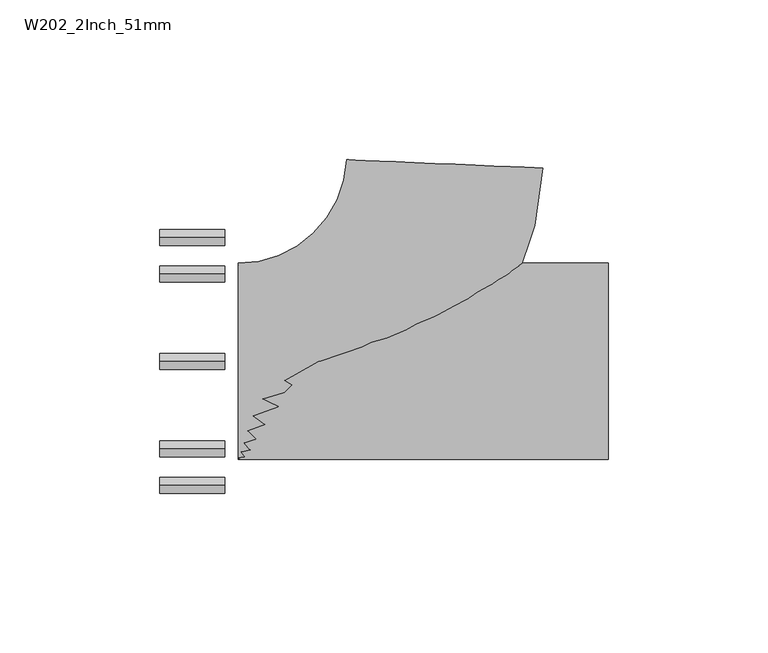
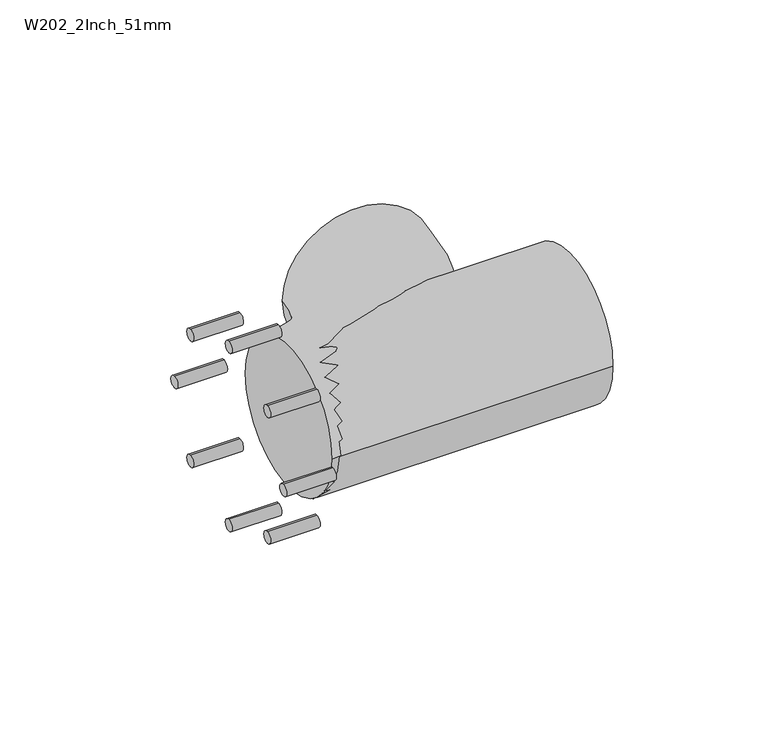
"""IFC4 building model written with IfcOpenShell, lengths in millimetres: pipe fitting geometry, Durapipe_PipeFitting_VulcatheneMechanical_92.5EqualSweepTee_W20 : W202_2Inch_51mm."""

import ifcopenshell
import ifcopenshell.guid

model = None  # the IFC model being written
_history = None  # IfcOwnerHistory: only IFC2X3 demands one
_inside = {}  # id of a spatial element -> (the spatial element, [elements in it])
_under = {}  # id of a project, library or spatial element -> (it, [spatial elements below it])
_declared = {}  # id of a project -> (the project, [libraries it declares])
_typed = {}  # id of a type object -> (the type object, [elements of that type])
_made_of = {}  # id of a material, layer set ... -> (it, [elements and type objects made of it])


def new_model(schema):
    """Start an empty IFC model of exactly this schema.

    Asked for "IFC4X3", IfcOpenShell would pick the latest addendum, in which some entities
    have other attributes; the version numbers below select the first issue.
    IFC2X3 requires an IfcOwnerHistory on every rooted entity: one is made here for all.
    """
    global model, _history
    if schema == "IFC4X3":
        model = ifcopenshell.file(schema_version=(4, 3, 0, 0))
    else:
        model = ifcopenshell.file(schema=schema)
    _inside.clear()
    _under.clear()
    _declared.clear()
    _typed.clear()
    _made_of.clear()
    _history = None
    if model.schema == "IFC2X3":
        org = make("IfcOrganization", Name="unknown")
        user = make(
            "IfcPersonAndOrganization",
            ThePerson=make("IfcPerson", FamilyName="unknown"),
            TheOrganization=org,
        )
        app = make(
            "IfcApplication",
            ApplicationDeveloper=org,
            Version="unknown",
            ApplicationFullName="unknown",
            ApplicationIdentifier="unknown",
        )
        _history = make(
            "IfcOwnerHistory",
            OwningUser=user,
            OwningApplication=app,
            ChangeAction="ADDED",
            CreationDate=0,
        )
    return model


def make(cls, **values):
    """One entity of the class cls with the attributes given. An attribute that is None is left unset."""
    return model.create_entity(
        cls, **{name: value for name, value in values.items() if value is not None}
    )


def rooted(cls, **values):
    """An entity with a GlobalId (a new one), such as an element, a storey or a relation."""
    return make(cls, GlobalId=ifcopenshell.guid.new(), OwnerHistory=_history, **values)


def si_unit(unit_type, name, prefix=None):
    """IfcSIUnit, for example si_unit("LENGTHUNIT", "METRE", prefix="MILLI")."""
    return make("IfcSIUnit", UnitType=unit_type, Prefix=prefix, Name=name)


def assignment(units):
    """IfcUnitAssignment: the units of a project."""
    return None if units is None else make("IfcUnitAssignment", Units=units)


def point(xyz):
    """IfcCartesianPoint."""
    return None if xyz is None else make("IfcCartesianPoint", Coordinates=xyz)


def direction(xyz):
    """IfcDirection."""
    return None if xyz is None else make("IfcDirection", DirectionRatios=xyz)


def frame(location, z_axis=None, x_axis=None):
    """IfcAxis2Placement3D, a coordinate frame: its origin and axes. An axis left out is left unset."""
    return make(
        "IfcAxis2Placement3D",
        Location=point(location),
        Axis=direction(z_axis),
        RefDirection=direction(x_axis),
    )


def frame_2d(location, x_axis=None):
    """IfcAxis2Placement2D, a coordinate frame in the plane: its origin and x axis."""
    return make(
        "IfcAxis2Placement2D", Location=point(location), RefDirection=direction(x_axis)
    )


def origin():
    """The frame at (0, 0, 0) with its axes left unset."""
    return frame((0.0, 0.0, 0.0))


def place(relative_to, where):
    """IfcLocalPlacement: puts the frame where relative to a parent placement (None: the world)."""
    return make(
        "IfcLocalPlacement", PlacementRelTo=relative_to, RelativePlacement=where
    )


def context(
    kind, dimensions, precision=None, world=None, true_north=None, identifier=None
):
    """IfcGeometricRepresentationContext, for example the 3D "Model" context."""
    return make(
        "IfcGeometricRepresentationContext",
        ContextIdentifier=identifier,
        ContextType=kind,
        CoordinateSpaceDimension=dimensions,
        Precision=precision,
        WorldCoordinateSystem=world,
        TrueNorth=true_north,
    )


def project(units=None, contexts=None):
    """IfcProject with its units and contexts."""
    return rooted(
        "IfcProject",
        Name="project",
        RepresentationContexts=contexts,
        UnitsInContext=assignment(units),
    )


def spatial(cls, under=None, at=None, **own):
    """A site, building, storey or space (cls), placed at a placement, below another one or the project."""
    s = rooted(cls, ObjectPlacement=at, **own)
    if under is not None:
        _under.setdefault(under.id(), (under, []))[1].append(s)
    return s


def circle_curve(where, radius):
    """IfcCircle in the frame where."""
    return make("IfcCircle", Position=where, Radius=radius)


def ellipse_curve(where, semi_axis1, semi_axis2):
    """IfcEllipse in the frame where."""
    return make(
        "IfcEllipse", Position=where, SemiAxis1=semi_axis1, SemiAxis2=semi_axis2
    )


def trimmed(basis, trim1, trim2, sense, master):
    """IfcTrimmedCurve: the piece of a basis curve between two trims."""
    return make(
        "IfcTrimmedCurve",
        BasisCurve=basis,
        Trim1=trim1,
        Trim2=trim2,
        SenseAgreement=sense,
        MasterRepresentation=master,
    )


def segment(curve, same_sense, transition):
    """IfcCompositeCurveSegment."""
    return make(
        "IfcCompositeCurveSegment",
        Transition=transition,
        SameSense=same_sense,
        ParentCurve=curve,
    )


def composite_curve(segments, self_intersect=None):
    """IfcCompositeCurve: segments joined end to end."""
    return make("IfcCompositeCurve", Segments=segments, SelfIntersect=self_intersect)


def outline(outer, holes=None, kind="AREA"):
    """IfcArbitraryClosedProfileDef: a profile drawn as a closed curve; with holes, ...WithVoids."""
    if holes is None:
        return make("IfcArbitraryClosedProfileDef", ProfileType=kind, OuterCurve=outer)
    return make(
        "IfcArbitraryProfileDefWithVoids",
        ProfileType=kind,
        OuterCurve=outer,
        InnerCurves=holes,
    )


def extrude(swept, where, along, depth):
    """IfcExtrudedAreaSolid: the profile swept, set in the frame where, extruded along a direction by depth."""
    return make(
        "IfcExtrudedAreaSolid",
        SweptArea=swept,
        Position=where,
        ExtrudedDirection=direction(along),
        Depth=depth,
    )


def shape(context_of_items, identifier, shape_type, items):
    """IfcShapeRepresentation: the items that make up one representation, for example the "Body"."""
    return make(
        "IfcShapeRepresentation",
        ContextOfItems=context_of_items,
        RepresentationIdentifier=identifier,
        RepresentationType=shape_type,
        Items=items,
    )


def source(mapping_origin, context_of_items, identifier, shape_type, items):
    """IfcRepresentationMap: a shape defined once, which mapped items show again and again."""
    return make(
        "IfcRepresentationMap",
        MappingOrigin=mapping_origin,
        MappedRepresentation=shape(context_of_items, identifier, shape_type, items),
    )


def transform(
    local_origin,
    x_axis=None,
    y_axis=None,
    z_axis=None,
    scale=None,
    scale2=None,
    scale3=None,
    uniform=True,
):
    """IfcCartesianTransformationOperator3D, or its non-uniform kind. x_axis, y_axis, z_axis: its Axis1, 2, 3."""
    if uniform:
        return make(
            "IfcCartesianTransformationOperator3D",
            Axis1=direction(x_axis),
            Axis2=direction(y_axis),
            LocalOrigin=point(local_origin),
            Scale=scale,
            Axis3=direction(z_axis),
        )
    return make(
        "IfcCartesianTransformationOperator3DnonUniform",
        Axis1=direction(x_axis),
        Axis2=direction(y_axis),
        LocalOrigin=point(local_origin),
        Scale=scale,
        Axis3=direction(z_axis),
        Scale2=scale2,
        Scale3=scale3,
    )


def mapped(mapping_source, mapping_target):
    """IfcMappedItem: shows the shape of a source again, moved by a transform."""
    return make(
        "IfcMappedItem", MappingSource=mapping_source, MappingTarget=mapping_target
    )


def made_of(thing, what):
    """Note that an element or type object is made of a material, layer set ...; save() writes the relation."""
    if what is not None:
        _made_of.setdefault(what.id(), (what, []))[1].append(thing)
    return thing


def element(
    cls,
    number,
    at=None,
    inside=None,
    cuts=None,
    type_object=None,
    material=None,
    context=None,
    identifier="Body",
    shape_type=None,
    held_by="IfcProductDefinitionShape",
    body=None,
    shapes=None,
    **own,
):
    """One element of the class cls, such as IfcWall. Its Tag is "e" and its number.

    at: its placement. inside: the storey or other place that contains it. cuts: it is an
    opening in that element (IfcRelVoidsElement). A single representation is given by context,
    identifier, shape_type and body (its items); several are given by shapes. held_by: the class
    of the entity that holds the representations. save() writes the other relations.
    """
    e = rooted(cls, Tag="e%d" % number, ObjectPlacement=at, **own)
    if body is not None:
        shapes = [shape(context, identifier, shape_type, body)]
    if shapes is not None:
        e.Representation = make(held_by, Representations=shapes)
    if inside is not None:
        _inside.setdefault(inside.id(), (inside, []))[1].append(e)
    if cuts is not None:
        rooted(
            "IfcRelVoidsElement", RelatingBuildingElement=cuts, RelatedOpeningElement=e
        )
    if type_object is not None:
        _typed.setdefault(type_object.id(), (type_object, []))[1].append(e)
    return made_of(e, material)


def aggregate(whole, parts):
    """IfcRelAggregates: a whole, such as a stair, and the parts it consists of."""
    return rooted("IfcRelAggregates", RelatingObject=whole, RelatedObjects=parts)


def save(model, path):
    """Write the relations noted so far, then the file.

    IfcRelAggregates (storeys below a building ...), IfcRelContainedInSpatialStructure (elements
    in a storey), IfcRelDefinesByType, IfcRelAssociatesMaterial and IfcRelDeclares: one each for
    every whole, place, type object, material and project.
    """
    for whole, parts in _under.values():
        aggregate(whole, parts)
    for where, things in _inside.values():
        rooted(
            "IfcRelContainedInSpatialStructure",
            RelatedElements=things,
            RelatingStructure=where,
        )
    for kind, things in _typed.values():
        rooted("IfcRelDefinesByType", RelatedObjects=things, RelatingType=kind)
    for what, things in _made_of.values():
        rooted("IfcRelAssociatesMaterial", RelatedObjects=things, RelatingMaterial=what)
    for by, libraries in _declared.values():
        rooted("IfcRelDeclares", RelatingContext=by, RelatedDefinitions=libraries)
    model.write(path)


def plane_surface(at):
    """IfcPlane: the flat surface through the origin of the frame at, square to its z axis."""
    return make("IfcPlane", Position=at)


def cylinder_surface(at, radius):
    """IfcCylindricalSurface: all points at the distance radius from the z axis of the frame at."""
    return make("IfcCylindricalSurface", Position=at, Radius=radius)


def revolved_surface(curve, axis_point, axis_direction):
    """IfcSurfaceOfRevolution: the curve turned about the line through axis_point along axis_direction."""
    return make(
        "IfcSurfaceOfRevolution",
        SweptCurve=make("IfcArbitraryOpenProfileDef", ProfileType="CURVE", Curve=curve),
        AxisPosition=make("IfcAxis1Placement", Location=point(axis_point), Axis=direction(axis_direction)),
    )


def advanced_brep(points, edges, surfaces, faces):
    """IfcAdvancedBrep: a solid bounded by faces that lie on surfaces and meet in shared edges.

    An edge is (start, end): straight between two places in points (the first is 0);
    or (start, end, curve); or (start, end, curve, False) where it runs against its curve.
    A face is (place in surfaces, loops), or (place, loops, False) where it looks against
    its surface's normal. A loop lists edges by number (the first is 1), with a minus sign
    where the edge is run from its end to its start. The first loop is the outer one.
    """
    corners = [point(p) for p in points]
    vertices = [make("IfcVertexPoint", VertexGeometry=c) for c in corners]
    made = []
    for start, end, *more in edges:
        made.append(
            make(
                "IfcEdgeCurve",
                EdgeStart=vertices[start],
                EdgeEnd=vertices[end],
                EdgeGeometry=more[0] if more else make("IfcPolyline", Points=[corners[start], corners[end]]),
                SameSense=more[1] if len(more) > 1 else True,
            )
        )
    hull = []
    for where, loops, *sense in faces:
        bounds = []
        for j, loop in enumerate(loops):
            ring = [make("IfcOrientedEdge", EdgeElement=made[abs(k) - 1], Orientation=k > 0) for k in loop]
            bounds.append(
                make(
                    "IfcFaceOuterBound" if j == 0 else "IfcFaceBound",
                    Bound=make("IfcEdgeLoop", EdgeList=ring),
                    Orientation=True,
                )
            )
        hull.append(make("IfcAdvancedFace", Bounds=bounds, FaceSurface=surfaces[where], SameSense=sense[0] if sense else True))
    return make("IfcAdvancedBrep", Outer=make("IfcClosedShell", CfsFaces=hull))


def w202_2inch_51mm_a334517c(model_context):
    return source(origin(), model_context, "Body", "SolidModel", [
        extrude(outline(composite_curve([segment(trimmed(circle_curve(frame_2d((38.8, 0.0)), 2.5), [point((38.8, -2.5))], [point((38.8, 2.5))], False, "CARTESIAN"), True, "CONTINUOUS"), segment(trimmed(circle_curve(frame_2d((38.8, 0.0)), 2.5), [point((38.8, 2.5))], [point((38.8, -2.5))], False, "CARTESIAN"), True, "CONTINUOUS")], self_intersect=False)), frame((-86.5367757, 0.0, 0.0), z_axis=(1.0, 0.0, 0.0), x_axis=(0.0, 1.0, 0.0)), (0.0, 0.0, 1.0), 20.4),
        extrude(outline(composite_curve([segment(trimmed(circle_curve(frame_2d((27.4357431, 27.4357431)), 2.5), [point((27.4357431, 24.9357431))], [point((27.4357431, 29.9357431))], False, "CARTESIAN"), True, "CONTINUOUS"), segment(trimmed(circle_curve(frame_2d((27.4357431, 27.4357431)), 2.5), [point((27.4357431, 29.9357431))], [point((27.4357431, 24.9357431))], False, "CARTESIAN"), True, "CONTINUOUS")], self_intersect=False)), frame((-86.5367757, 0.0, 0.0), z_axis=(1.0, 0.0, 0.0), x_axis=(0.0, 1.0, 0.0)), (0.0, 0.0, 1.0), 20.4),
        extrude(outline(composite_curve([segment(trimmed(circle_curve(frame_2d((0.0, 38.8)), 2.5), [point((0.0, 36.3))], [point((0.0, 41.3))], False, "CARTESIAN"), True, "CONTINUOUS"), segment(trimmed(circle_curve(frame_2d((0.0, 38.8)), 2.5), [point((0.0, 41.3))], [point((0.0, 36.3))], False, "CARTESIAN"), True, "CONTINUOUS")], self_intersect=False)), frame((-86.5367757, 0.0, 0.0), z_axis=(1.0, 0.0, 0.0), x_axis=(0.0, 1.0, 0.0)), (0.0, 0.0, 1.0), 20.4),
        extrude(outline(composite_curve([segment(trimmed(circle_curve(frame_2d((-27.4357431, 27.4357431)), 2.5), [point((-27.4357431, 24.9357431))], [point((-27.4357431, 29.9357431))], False, "CARTESIAN"), True, "CONTINUOUS"), segment(trimmed(circle_curve(frame_2d((-27.4357431, 27.4357431)), 2.5), [point((-27.4357431, 29.9357431))], [point((-27.4357431, 24.9357431))], False, "CARTESIAN"), True, "CONTINUOUS")], self_intersect=False)), frame((-86.5367757, 0.0, 0.0), z_axis=(1.0, 0.0, 0.0), x_axis=(0.0, 1.0, 0.0)), (0.0, 0.0, 1.0), 20.4),
        extrude(outline(composite_curve([segment(trimmed(circle_curve(frame_2d((-38.8, 0.0)), 2.5), [point((-38.8, -2.5))], [point((-38.8, 2.5))], False, "CARTESIAN"), True, "CONTINUOUS"), segment(trimmed(circle_curve(frame_2d((-38.8, 0.0)), 2.5), [point((-38.8, 2.5))], [point((-38.8, -2.5))], False, "CARTESIAN"), True, "CONTINUOUS")], self_intersect=False)), frame((-86.5367757, 0.0, 0.0), z_axis=(1.0, 0.0, 0.0), x_axis=(0.0, 1.0, 0.0)), (0.0, 0.0, 1.0), 20.4),
        extrude(outline(composite_curve([segment(trimmed(circle_curve(frame_2d((-27.4357431, -27.4357431)), 2.5), [point((-27.4357431, -29.9357431))], [point((-27.4357431, -24.9357431))], False, "CARTESIAN"), True, "CONTINUOUS"), segment(trimmed(circle_curve(frame_2d((-27.4357431, -27.4357431)), 2.5), [point((-27.4357431, -24.9357431))], [point((-27.4357431, -29.9357431))], False, "CARTESIAN"), True, "CONTINUOUS")], self_intersect=False)), frame((-86.5367757, 0.0, 0.0), z_axis=(1.0, 0.0, 0.0), x_axis=(0.0, 1.0, 0.0)), (0.0, 0.0, 1.0), 20.4),
        extrude(outline(composite_curve([segment(trimmed(circle_curve(frame_2d((0.0, -38.8)), 2.5), [point((0.0, -41.3))], [point((0.0, -36.3))], False, "CARTESIAN"), True, "CONTINUOUS"), segment(trimmed(circle_curve(frame_2d((0.0, -38.8)), 2.5), [point((0.0, -36.3))], [point((0.0, -41.3))], False, "CARTESIAN"), True, "CONTINUOUS")], self_intersect=False)), frame((-86.5367757, 0.0, 0.0), z_axis=(1.0, 0.0, 0.0), x_axis=(0.0, 1.0, 0.0)), (0.0, 0.0, 1.0), 20.4),
        extrude(outline(composite_curve([segment(trimmed(circle_curve(frame_2d((27.4357431, -27.4357431)), 2.5), [point((27.4357431, -29.9357431))], [point((27.4357431, -24.9357431))], False, "CARTESIAN"), True, "CONTINUOUS"), segment(trimmed(circle_curve(frame_2d((27.4357431, -27.4357431)), 2.5), [point((27.4357431, -24.9357431))], [point((27.4357431, -29.9357431))], False, "CARTESIAN"), True, "CONTINUOUS")], self_intersect=False)), frame((-86.5367757, 0.0, 0.0), z_axis=(1.0, 0.0, 0.0), x_axis=(0.0, 1.0, 0.0)), (0.0, 0.0, 1.0), 20.4),
        advanced_brep(
        [(-61.9367757, -30.75, 0.0), (-61.9367757, 30.75, 0.0), (33.422377, 60.5365295, 0.0), (-28.0190886, 63.2191218, 0.0)],
        [
            (0, 1, circle_curve(frame((-61.9367757, 0.0, 0.0), z_axis=(-1.0, 0.0, 0.0), x_axis=(0.0, 1.0, 0.0)), 30.75)),
            (1, 0, circle_curve(frame((-61.9367757, 0.0, 0.0), z_axis=(-1.0, 0.0, 0.0), x_axis=(0.0, 1.0, 0.0)), 30.75)),
            (2, 3, circle_curve(frame((2.7016442, 61.8778256, 0.0), z_axis=(0.0436193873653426, 0.9990482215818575, 0.0), x_axis=(-0.9990482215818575, 0.0436193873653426, 0.0)), 30.75)),
            (3, 2, circle_curve(frame((2.7016442, 61.8778256, 0.0), z_axis=(0.0436193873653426, 0.9990482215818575, 0.0), x_axis=(-0.9990482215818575, 0.0436193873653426, 0.0)), 30.75)),
            (3, 1, circle_curve(frame((-61.9367757, 64.7, 0.0), z_axis=(0.0, 0.0, -1.0), x_axis=(0.0, -1.0, 0.0)), 33.95)),
            (0, 2, circle_curve(frame((-61.9367757, 64.7, 0.0), z_axis=(0.0, 0.0, 1.0), x_axis=(0.0, -1.0, 0.0)), 95.45)),
        ],
        [
            plane_surface(frame((-61.9367757, 0.0, 0.0), z_axis=(-1.0, 0.0, 0.0), x_axis=(0.0, 0.0, 1.0))),
            plane_surface(frame((2.7016442, 61.8778256, 0.0), z_axis=(0.04361938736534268, 0.9990482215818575, 0.0), x_axis=(0.0, 0.0, 1.0))),
            revolved_surface(trimmed(ellipse_curve(frame((-61.9367757, 0.0, 0.0), z_axis=(-1.0, 0.0, 0.0), x_axis=(0.0, 1.0, 0.0)), 30.75, 30.75), [point((-61.9367757, -30.75, 0.0))], [point((-61.9367757, 30.75, 0.0))], True, "CARTESIAN"), (-61.9367757, 64.7, 0.0), (0.0, 0.0, 1.0)),
            revolved_surface(trimmed(ellipse_curve(frame((-61.9367757, 0.0, 0.0), z_axis=(-1.0, 0.0, 0.0), x_axis=(0.0, 1.0, 0.0)), 30.75, 30.75), [point((-61.9367757, 30.75, 0.0))], [point((-61.9367757, -30.75, 0.0))], True, "CARTESIAN"), (-61.9367757, 64.7, 0.0), (0.0, 0.0, 1.0)),
        ],
        [
            (0, [[1, 2]]),
            (1, [[3, 4]]),
            (2, [[5, -1, 6, -4]]),
            (3, [[-6, -2, -5, -3]]),
        ],
    ),
        advanced_brep(
        [(-61.9367757, -30.75, 0.0), (-61.9367757, 30.75, 0.0), (53.8632243, 30.75, 0.0), (53.8632243, -30.75, 0.0), (-61.9367757, 0.0, 0.0), (53.8632243, 0.0, 0.0)],
        [
            (0, 1, circle_curve(frame((-61.9367757, 0.0, 0.0), z_axis=(1.0, 0.0, 0.0), x_axis=(0.0, 1.0, 0.0)), 30.75)),
            (1, 2),
            (2, 3, circle_curve(frame((53.8632243, 0.0, 0.0), z_axis=(-1.0, 0.0, 0.0), x_axis=(0.0, 1.0, 0.0)), 30.75)),
            (3, 0),
            (1, 0, circle_curve(frame((-61.9367757, 0.0, 0.0), z_axis=(1.0, 0.0, 0.0), x_axis=(0.0, 1.0, 0.0)), 30.75)),
            (3, 2, circle_curve(frame((53.8632243, 0.0, 0.0), z_axis=(-1.0, 0.0, 0.0), x_axis=(0.0, 1.0, 0.0)), 30.75)),
            (4, 1),
            (0, 4),
            (2, 5),
            (5, 3),
        ],
        [
            cylinder_surface(frame((98.4632243, 0.0, 0.0), z_axis=(-1.0, 0.0, 0.0), x_axis=(0.0, 1.0, 0.0)), 30.75),
            plane_surface(frame((-61.9367757, 0.0, 0.0), z_axis=(-1.0, 0.0, 0.0), x_axis=(0.0, 1.0, 0.0))),
            plane_surface(frame((53.8632243, 0.0, 0.0), z_axis=(1.0, 0.0, 0.0), x_axis=(0.0, 1.0, 0.0))),
        ],
        [
            (0, [[1, 2, 3, 4]]),
            (0, [[5, -4, 6, -2]]),
            (1, [[7, -1, 8]]),
            (1, [[-8, -5, -7]]),
            (2, [[-3, 9, 10]]),
            (2, [[-6, -10, -9]]),
        ],
    ),
    ])


if __name__ == "__main__":
    model = new_model("IFC4")
    model_context = context("Model", 3, world=origin())
    ifc_project = project(units=[si_unit("LENGTHUNIT", "METRE", prefix="MILLI")], contexts=[model_context])
    site = spatial("IfcSite", under=ifc_project)
    building = spatial("IfcBuilding", under=site)
    placement = place(None, origin())
    w202_2inch_51mm_shape = w202_2inch_51mm_a334517c(model_context)
    element("IfcPipeFitting", 1, ObjectType="Durapipe_PipeFitting_VulcatheneMechanical_92.5EqualSweepTee_W20 : W202_2Inch_51mm", at=placement, inside=building, context=model_context, shape_type="MappedRepresentation", body=[
        mapped(w202_2inch_51mm_shape, transform((0.0, 0.0, 0.0), x_axis=(1.0, 0.0, 0.0), y_axis=(0.0, 1.0, 0.0), z_axis=(0.0, 0.0, 1.0))),
    ])
    save(model, "model.ifc")
